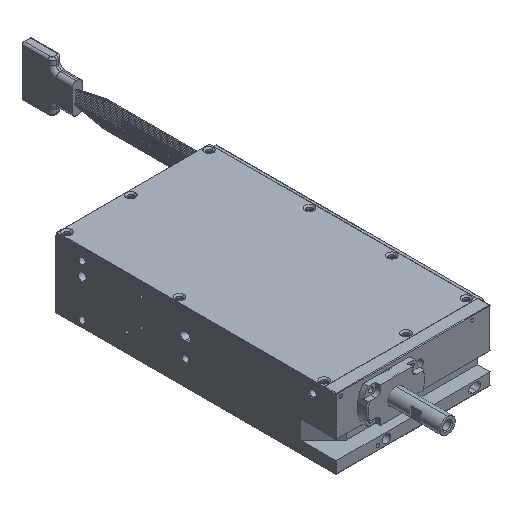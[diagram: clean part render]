
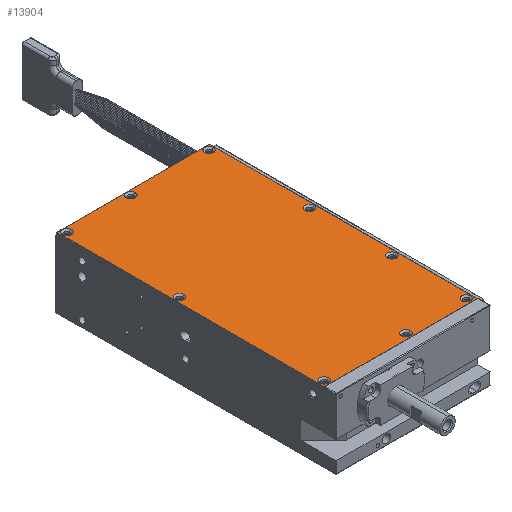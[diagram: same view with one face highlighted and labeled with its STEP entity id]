
A CAD part, isometric view. The second image highlights one B-rep face of the part: STEP entity #13904.
In plain terms, the highlighted planar face has unit normal (0, 0, 1).
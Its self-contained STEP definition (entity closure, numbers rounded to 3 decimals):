
#11329=CARTESIAN_POINT('',(-33.926,-63.056,1.6));
#11330=VERTEX_POINT('',#11329);
#11337=CARTESIAN_POINT('',(-38.326,-63.056,1.6));
#11338=VERTEX_POINT('',#11337);
#11339=CARTESIAN_POINT('',(-36.126,-63.056,1.6));
#11340=DIRECTION('',(0.0,0.0,-1.0));
#11341=DIRECTION('',(1.0,0.0,0.0));
#11342=AXIS2_PLACEMENT_3D('',#11339,#11340,#11341);
#11343=CIRCLE('',#11342,2.2);
#11344=EDGE_CURVE('',#11338,#11330,#11343,.T.);
#11445=CARTESIAN_POINT('',(-33.926,8.944,1.6));
#11446=VERTEX_POINT('',#11445);
#11453=CARTESIAN_POINT('',(-38.326,8.944,1.6));
#11454=VERTEX_POINT('',#11453);
#11455=CARTESIAN_POINT('',(-36.126,8.944,1.6));
#11456=DIRECTION('',(0.0,0.0,-1.0));
#11457=DIRECTION('',(1.0,0.0,0.0));
#11458=AXIS2_PLACEMENT_3D('',#11455,#11456,#11457);
#11459=CIRCLE('',#11458,2.2);
#11460=EDGE_CURVE('',#11454,#11446,#11459,.T.);
#11561=CARTESIAN_POINT('',(6.874,-63.056,1.6));
#11562=VERTEX_POINT('',#11561);
#11569=CARTESIAN_POINT('',(2.474,-63.056,1.6));
#11570=VERTEX_POINT('',#11569);
#11571=CARTESIAN_POINT('',(4.674,-63.056,1.6));
#11572=DIRECTION('',(0.0,0.0,-1.0));
#11573=DIRECTION('',(1.0,0.0,0.0));
#11574=AXIS2_PLACEMENT_3D('',#11571,#11572,#11573);
#11575=CIRCLE('',#11574,2.2);
#11576=EDGE_CURVE('',#11570,#11562,#11575,.T.);
#11677=CARTESIAN_POINT('',(36.874,-63.056,1.6));
#11678=VERTEX_POINT('',#11677);
#11685=CARTESIAN_POINT('',(32.474,-63.056,1.6));
#11686=VERTEX_POINT('',#11685);
#11687=CARTESIAN_POINT('',(34.674,-63.056,1.6));
#11688=DIRECTION('',(0.0,0.0,-1.0));
#11689=DIRECTION('',(1.0,0.0,0.0));
#11690=AXIS2_PLACEMENT_3D('',#11687,#11688,#11689);
#11691=CIRCLE('',#11690,2.2);
#11692=EDGE_CURVE('',#11686,#11678,#11691,.T.);
#11793=CARTESIAN_POINT('',(-33.926,64.944,1.6));
#11794=VERTEX_POINT('',#11793);
#11801=CARTESIAN_POINT('',(-38.326,64.944,1.6));
#11802=VERTEX_POINT('',#11801);
#11803=CARTESIAN_POINT('',(-36.126,64.944,1.6));
#11804=DIRECTION('',(0.0,0.0,-1.0));
#11805=DIRECTION('',(1.0,0.0,0.0));
#11806=AXIS2_PLACEMENT_3D('',#11803,#11804,#11805);
#11807=CIRCLE('',#11806,2.2);
#11808=EDGE_CURVE('',#11802,#11794,#11807,.T.);
#11909=CARTESIAN_POINT('',(36.874,64.944,1.6));
#11910=VERTEX_POINT('',#11909);
#11917=CARTESIAN_POINT('',(32.474,64.944,1.6));
#11918=VERTEX_POINT('',#11917);
#11919=CARTESIAN_POINT('',(34.674,64.944,1.6));
#11920=DIRECTION('',(0.0,0.0,-1.0));
#11921=DIRECTION('',(1.0,0.0,0.0));
#11922=AXIS2_PLACEMENT_3D('',#11919,#11920,#11921);
#11923=CIRCLE('',#11922,2.2);
#11924=EDGE_CURVE('',#11918,#11910,#11923,.T.);
#12025=CARTESIAN_POINT('',(-2.126,64.944,1.6));
#12026=VERTEX_POINT('',#12025);
#12033=CARTESIAN_POINT('',(-6.526,64.944,1.6));
#12034=VERTEX_POINT('',#12033);
#12035=CARTESIAN_POINT('',(-4.326,64.944,1.6));
#12036=DIRECTION('',(0.0,0.0,-1.0));
#12037=DIRECTION('',(1.0,0.0,0.0));
#12038=AXIS2_PLACEMENT_3D('',#12035,#12036,#12037);
#12039=CIRCLE('',#12038,2.2);
#12040=EDGE_CURVE('',#12034,#12026,#12039,.T.);
#12141=CARTESIAN_POINT('',(36.874,14.944,1.6));
#12142=VERTEX_POINT('',#12141);
#12149=CARTESIAN_POINT('',(32.474,14.944,1.6));
#12150=VERTEX_POINT('',#12149);
#12151=CARTESIAN_POINT('',(34.674,14.944,1.6));
#12152=DIRECTION('',(0.0,0.0,-1.0));
#12153=DIRECTION('',(1.0,0.0,0.0));
#12154=AXIS2_PLACEMENT_3D('',#12151,#12152,#12153);
#12155=CIRCLE('',#12154,2.2);
#12156=EDGE_CURVE('',#12150,#12142,#12155,.T.);
#12257=CARTESIAN_POINT('',(36.874,-26.056,1.6));
#12258=VERTEX_POINT('',#12257);
#12265=CARTESIAN_POINT('',(32.474,-26.056,1.6));
#12266=VERTEX_POINT('',#12265);
#12267=CARTESIAN_POINT('',(34.674,-26.056,1.6));
#12268=DIRECTION('',(0.0,0.0,-1.0));
#12269=DIRECTION('',(1.0,0.0,0.0));
#12270=AXIS2_PLACEMENT_3D('',#12267,#12268,#12269);
#12271=CIRCLE('',#12270,2.2);
#12272=EDGE_CURVE('',#12266,#12258,#12271,.T.);
#12319=CARTESIAN_POINT('',(34.674,-26.056,1.6));
#12320=DIRECTION('',(0.0,0.0,-1.0));
#12321=DIRECTION('',(1.0,0.0,0.0));
#12322=AXIS2_PLACEMENT_3D('',#12319,#12320,#12321);
#12323=CIRCLE('',#12322,2.2);
#12324=EDGE_CURVE('',#12258,#12266,#12323,.T.);
#13161=CARTESIAN_POINT('',(34.674,14.944,1.6));
#13162=DIRECTION('',(0.0,0.0,-1.0));
#13163=DIRECTION('',(1.0,0.0,0.0));
#13164=AXIS2_PLACEMENT_3D('',#13161,#13162,#13163);
#13165=CIRCLE('',#13164,2.2);
#13166=EDGE_CURVE('',#12142,#12150,#13165,.T.);
#13239=CARTESIAN_POINT('',(-4.326,64.944,1.6));
#13240=DIRECTION('',(0.0,0.0,-1.0));
#13241=DIRECTION('',(1.0,0.0,0.0));
#13242=AXIS2_PLACEMENT_3D('',#13239,#13240,#13241);
#13243=CIRCLE('',#13242,2.2);
#13244=EDGE_CURVE('',#12026,#12034,#13243,.T.);
#13317=CARTESIAN_POINT('',(34.674,64.944,1.6));
#13318=DIRECTION('',(0.0,0.0,-1.0));
#13319=DIRECTION('',(1.0,0.0,0.0));
#13320=AXIS2_PLACEMENT_3D('',#13317,#13318,#13319);
#13321=CIRCLE('',#13320,2.2);
#13322=EDGE_CURVE('',#11910,#11918,#13321,.T.);
#13395=CARTESIAN_POINT('',(-36.126,64.944,1.6));
#13396=DIRECTION('',(0.0,0.0,-1.0));
#13397=DIRECTION('',(1.0,0.0,0.0));
#13398=AXIS2_PLACEMENT_3D('',#13395,#13396,#13397);
#13399=CIRCLE('',#13398,2.2);
#13400=EDGE_CURVE('',#11794,#11802,#13399,.T.);
#13473=CARTESIAN_POINT('',(34.674,-63.056,1.6));
#13474=DIRECTION('',(0.0,0.0,-1.0));
#13475=DIRECTION('',(1.0,0.0,0.0));
#13476=AXIS2_PLACEMENT_3D('',#13473,#13474,#13475);
#13477=CIRCLE('',#13476,2.2);
#13478=EDGE_CURVE('',#11678,#11686,#13477,.T.);
#13551=CARTESIAN_POINT('',(4.674,-63.056,1.6));
#13552=DIRECTION('',(0.0,0.0,-1.0));
#13553=DIRECTION('',(1.0,0.0,0.0));
#13554=AXIS2_PLACEMENT_3D('',#13551,#13552,#13553);
#13555=CIRCLE('',#13554,2.2);
#13556=EDGE_CURVE('',#11562,#11570,#13555,.T.);
#13629=CARTESIAN_POINT('',(-36.126,8.944,1.6));
#13630=DIRECTION('',(0.0,0.0,-1.0));
#13631=DIRECTION('',(1.0,0.0,0.0));
#13632=AXIS2_PLACEMENT_3D('',#13629,#13630,#13631);
#13633=CIRCLE('',#13632,2.2);
#13634=EDGE_CURVE('',#11446,#11454,#13633,.T.);
#13707=CARTESIAN_POINT('',(-36.126,-63.056,1.6));
#13708=DIRECTION('',(0.0,0.0,-1.0));
#13709=DIRECTION('',(1.0,0.0,0.0));
#13710=AXIS2_PLACEMENT_3D('',#13707,#13708,#13709);
#13711=CIRCLE('',#13710,2.2);
#13712=EDGE_CURVE('',#11330,#11338,#13711,.T.);
#13757=CARTESIAN_POINT('',(-38.726,-65.956,1.6));
#13758=VERTEX_POINT('',#13757);
#13765=CARTESIAN_POINT('',(-38.726,67.344,1.6));
#13766=VERTEX_POINT('',#13765);
#13767=CARTESIAN_POINT('',(-38.726,-65.956,1.6));
#13768=DIRECTION('',(0.0,1.0,0.0));
#13769=VECTOR('',#13768,133.3);
#13770=LINE('',#13767,#13769);
#13771=EDGE_CURVE('',#13758,#13766,#13770,.T.);
#13795=CARTESIAN_POINT('',(37.374,67.344,1.6));
#13796=VERTEX_POINT('',#13795);
#13797=CARTESIAN_POINT('',(-38.726,67.344,1.6));
#13798=DIRECTION('',(1.0,0.0,0.0));
#13799=VECTOR('',#13798,76.1);
#13800=LINE('',#13797,#13799);
#13801=EDGE_CURVE('',#13766,#13796,#13800,.T.);
#13826=CARTESIAN_POINT('',(37.374,-65.956,1.6));
#13827=VERTEX_POINT('',#13826);
#13843=CARTESIAN_POINT('',(37.374,67.344,1.6));
#13844=DIRECTION('',(0.0,-1.0,0.0));
#13845=VECTOR('',#13844,133.3);
#13846=LINE('',#13843,#13845);
#13847=EDGE_CURVE('',#13796,#13827,#13846,.T.);
#13852=CARTESIAN_POINT('',(-42.531,-72.621,1.6));
#13853=DIRECTION('',(0.0,0.0,1.0));
#13854=DIRECTION('',(1.0,0.0,0.0));
#13855=AXIS2_PLACEMENT_3D('',#13852,#13853,#13854);
#13856=PLANE('',#13855);
#13857=ORIENTED_EDGE('',*,*,#13847,.F.);
#13858=ORIENTED_EDGE('',*,*,#13801,.F.);
#13859=ORIENTED_EDGE('',*,*,#13771,.F.);
#13860=CARTESIAN_POINT('',(37.374,-65.956,1.6));
#13861=DIRECTION('',(-1.0,0.0,0.0));
#13862=VECTOR('',#13861,76.1);
#13863=LINE('',#13860,#13862);
#13864=EDGE_CURVE('',#13827,#13758,#13863,.T.);
#13865=ORIENTED_EDGE('',*,*,#13864,.F.);
#13866=EDGE_LOOP('',(#13857,#13858,#13859,#13865));
#13867=FACE_OUTER_BOUND('',#13866,.T.);
#13868=ORIENTED_EDGE('',*,*,#12324,.T.);
#13869=ORIENTED_EDGE('',*,*,#12272,.T.);
#13870=EDGE_LOOP('',(#13868,#13869));
#13871=FACE_BOUND('',#13870,.T.);
#13872=ORIENTED_EDGE('',*,*,#13166,.T.);
#13873=ORIENTED_EDGE('',*,*,#12156,.T.);
#13874=EDGE_LOOP('',(#13872,#13873));
#13875=FACE_BOUND('',#13874,.T.);
#13876=ORIENTED_EDGE('',*,*,#13244,.T.);
#13877=ORIENTED_EDGE('',*,*,#12040,.T.);
#13878=EDGE_LOOP('',(#13876,#13877));
#13879=FACE_BOUND('',#13878,.T.);
#13880=ORIENTED_EDGE('',*,*,#13322,.T.);
#13881=ORIENTED_EDGE('',*,*,#11924,.T.);
#13882=EDGE_LOOP('',(#13880,#13881));
#13883=FACE_BOUND('',#13882,.T.);
#13884=ORIENTED_EDGE('',*,*,#13400,.T.);
#13885=ORIENTED_EDGE('',*,*,#11808,.T.);
#13886=EDGE_LOOP('',(#13884,#13885));
#13887=FACE_BOUND('',#13886,.T.);
#13888=ORIENTED_EDGE('',*,*,#13478,.T.);
#13889=ORIENTED_EDGE('',*,*,#11692,.T.);
#13890=EDGE_LOOP('',(#13888,#13889));
#13891=FACE_BOUND('',#13890,.T.);
#13892=ORIENTED_EDGE('',*,*,#13556,.T.);
#13893=ORIENTED_EDGE('',*,*,#11576,.T.);
#13894=EDGE_LOOP('',(#13892,#13893));
#13895=FACE_BOUND('',#13894,.T.);
#13896=ORIENTED_EDGE('',*,*,#13634,.T.);
#13897=ORIENTED_EDGE('',*,*,#11460,.T.);
#13898=EDGE_LOOP('',(#13896,#13897));
#13899=FACE_BOUND('',#13898,.T.);
#13900=ORIENTED_EDGE('',*,*,#13712,.T.);
#13901=ORIENTED_EDGE('',*,*,#11344,.T.);
#13902=EDGE_LOOP('',(#13900,#13901));
#13903=FACE_BOUND('',#13902,.T.);
#13904=ADVANCED_FACE('',(#13867,#13871,#13875,#13879,#13883,#13887,#13891,#13895,#13899,#13903),#13856,.T.);
